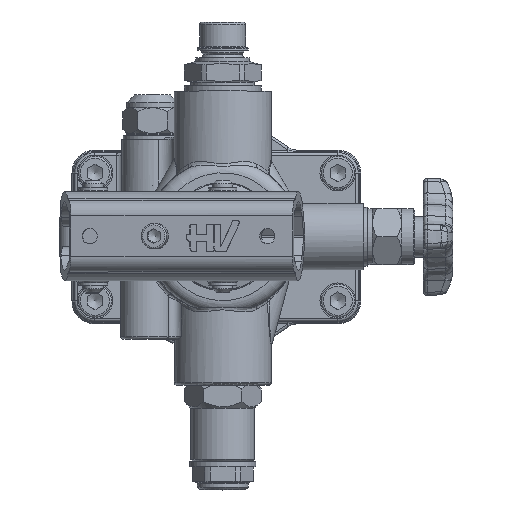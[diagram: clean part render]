
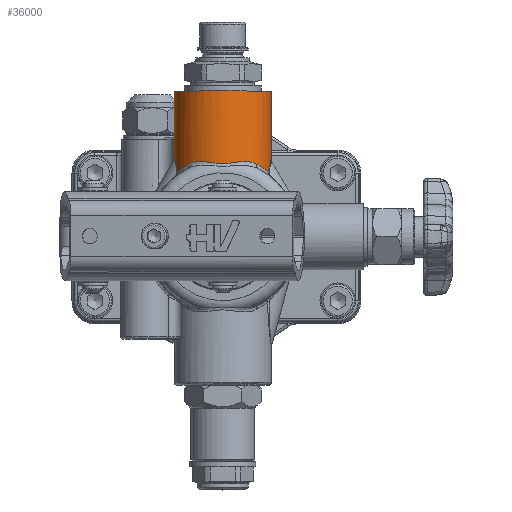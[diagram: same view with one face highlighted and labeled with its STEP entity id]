
A CAD part, top view. The second image highlights one B-rep face of the part: STEP entity #36000.
In plain terms, the highlighted cylindrical face has radius 19 mm (diameter 38 mm), a full revolution.
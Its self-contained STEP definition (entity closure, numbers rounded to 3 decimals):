
#33521=CARTESIAN_POINT('',(-10.797,28.425,52.571));
#33522=VERTEX_POINT('',#33521);
#33548=CARTESIAN_POINT('',(15.797,28.425,52.571));
#33549=VERTEX_POINT('',#33548);
#33557=CARTESIAN_POINT('',(15.797,28.425,52.571));
#33558=CARTESIAN_POINT('',(14.852,28.965,53.498));
#33559=CARTESIAN_POINT('',(12.63,29.567,55.267));
#33560=CARTESIAN_POINT('',(9.399,29.374,56.8));
#33561=CARTESIAN_POINT('',(6.694,28.984,57.571));
#33562=CARTESIAN_POINT('',(4.444,28.666,57.95));
#33563=CARTESIAN_POINT('',(2.319,28.562,58.04));
#33564=CARTESIAN_POINT('',(-0.497,28.771,57.842));
#33565=CARTESIAN_POINT('',(-3.757,29.341,57.106));
#33566=CARTESIAN_POINT('',(-7.303,29.545,55.421));
#33567=CARTESIAN_POINT('',(-9.572,29.044,53.724));
#33568=CARTESIAN_POINT('',(-10.561,28.56,52.803));
#33569=CARTESIAN_POINT('',(-10.797,28.425,52.571));
#33570=B_SPLINE_CURVE_WITH_KNOTS('',3,(#33557,#33558,#33559,#33560,#33561,#33562,#33563,#33564,#33565,#33566,#33567,#33568,#33569),.UNSPECIFIED.,.F.,.U.,(4,1,1,1,1,1,1,1,1,1,4),(-3.274,-2.806,-2.339,-2.105,-1.871,-1.579,-1.403,-0.935,-0.468,-0.117,0.),.UNSPECIFIED.);
#33571=EDGE_CURVE('',#33549,#33522,#33570,.T.);
#34656=CARTESIAN_POINT('',(-15.885,39.,34.203));
#34657=VERTEX_POINT('',#34656);
#34665=CARTESIAN_POINT('',(-8.49,39.,23.501));
#34666=VERTEX_POINT('',#34665);
#34667=CARTESIAN_POINT('',(2.5,39.,39.0));
#34668=DIRECTION('',(0.0,1.0,0.0));
#34669=DIRECTION('',(1.0,0.0,0.0));
#34670=AXIS2_PLACEMENT_3D('',#34667,#34668,#34669);
#34671=CIRCLE('',#34670,19.);
#34672=EDGE_CURVE('',#34666,#34657,#34671,.T.);
#34718=CARTESIAN_POINT('',(-5.958,38.,21.986));
#34719=VERTEX_POINT('',#34718);
#34727=CARTESIAN_POINT('',(-5.958,30.604,21.986));
#34728=VERTEX_POINT('',#34727);
#34729=CARTESIAN_POINT('',(-5.958,38.,21.986));
#34730=DIRECTION('',(0.0,-1.0,0.0));
#34731=VECTOR('',#34730,7.396);
#34732=LINE('',#34729,#34731);
#34733=EDGE_CURVE('',#34719,#34728,#34732,.T.);
#34771=CARTESIAN_POINT('',(-16.406,38.,37.108));
#34772=VERTEX_POINT('',#34771);
#34780=CARTESIAN_POINT('',(-15.885,39.,34.203));
#34781=CARTESIAN_POINT('',(-15.927,39.,34.367));
#34782=CARTESIAN_POINT('',(-15.975,38.984,34.557));
#34783=CARTESIAN_POINT('',(-16.196,38.794,35.528));
#34784=CARTESIAN_POINT('',(-16.324,38.408,36.301));
#34785=CARTESIAN_POINT('',(-16.405,38.003,37.103));
#34786=CARTESIAN_POINT('',(-16.405,38.001,37.105));
#34787=CARTESIAN_POINT('',(-16.406,38.,37.108));
#34788=B_SPLINE_CURVE_WITH_KNOTS('',3,(#34780,#34781,#34782,#34783,#34784,#34785,#34786,#34787),.UNSPECIFIED.,.F.,.U.,(4,2,2,4),(0.777,0.821,0.967,0.968),.UNSPECIFIED.);
#34789=EDGE_CURVE('',#34772,#34657,#34788,.F.);
#35244=CARTESIAN_POINT('',(-15.189,25.333,45.935));
#35245=VERTEX_POINT('',#35244);
#35262=CARTESIAN_POINT('',(-10.797,28.425,52.571));
#35263=CARTESIAN_POINT('',(-12.683,27.348,50.724));
#35264=CARTESIAN_POINT('',(-14.196,26.179,48.467));
#35265=CARTESIAN_POINT('',(-15.189,25.333,45.935));
#35266=B_SPLINE_CURVE_WITH_KNOTS('',3,(#35262,#35263,#35264,#35265),.UNSPECIFIED.,.F.,.U.,(4,4),(0.0,0.933),.UNSPECIFIED.);
#35267=EDGE_CURVE('',#33522,#35245,#35266,.T.);
#35725=CARTESIAN_POINT('',(20.237,25.292,45.812));
#35726=VERTEX_POINT('',#35725);
#35738=CARTESIAN_POINT('',(20.237,25.292,45.813));
#35739=CARTESIAN_POINT('',(19.242,26.144,48.403));
#35740=CARTESIAN_POINT('',(17.716,27.329,50.691));
#35741=CARTESIAN_POINT('',(15.797,28.425,52.571));
#35742=B_SPLINE_CURVE_WITH_KNOTS('',3,(#35738,#35739,#35740,#35741),.UNSPECIFIED.,.F.,.U.,(4,4),(9.304,10.254),.UNSPECIFIED.);
#35743=EDGE_CURVE('',#35726,#33549,#35742,.T.);
#35802=CARTESIAN_POINT('',(20.237,25.292,32.188));
#35803=VERTEX_POINT('',#35802);
#35815=CARTESIAN_POINT('',(-5.958,30.604,21.986));
#35816=CARTESIAN_POINT('',(-5.196,30.862,21.608));
#35817=CARTESIAN_POINT('',(-2.89,31.531,20.647));
#35818=CARTESIAN_POINT('',(1.286,32.137,19.81));
#35819=CARTESIAN_POINT('',(8.094,31.789,20.296));
#35820=CARTESIAN_POINT('',(14.065,29.597,23.341));
#35821=CARTESIAN_POINT('',(18.216,26.944,28.001));
#35822=CARTESIAN_POINT('',(19.69,25.76,30.766));
#35823=CARTESIAN_POINT('',(20.237,25.292,32.188));
#35824=B_SPLINE_CURVE_WITH_KNOTS('',3,(#35815,#35816,#35817,#35818,#35819,#35820,#35821,#35822,#35823),.UNSPECIFIED.,.F.,.U.,(4,1,1,1,1,1,4),(4.146,4.437,4.994,5.552,6.666,7.223,7.746),.UNSPECIFIED.);
#35825=EDGE_CURVE('',#34728,#35803,#35824,.T.);
#35935=CARTESIAN_POINT('',(2.5,0.0,39.0));
#35936=DIRECTION('',(0.0,1.0,0.0));
#35937=DIRECTION('',(1.0,0.0,0.0));
#35938=AXIS2_PLACEMENT_3D('',#35935,#35936,#35937);
#35939=CYLINDRICAL_SURFACE('',#35938,19.);
#35940=CARTESIAN_POINT('',(20.237,25.292,32.188));
#35941=CARTESIAN_POINT('',(20.379,26.061,32.558));
#35942=CARTESIAN_POINT('',(20.862,28.254,33.881));
#35943=CARTESIAN_POINT('',(21.514,30.155,36.86));
#35944=CARTESIAN_POINT('',(21.513,30.15,40.27));
#35945=CARTESIAN_POINT('',(21.192,29.22,42.634));
#35946=CARTESIAN_POINT('',(20.702,27.526,44.537));
#35947=CARTESIAN_POINT('',(20.379,26.061,45.442));
#35948=CARTESIAN_POINT('',(20.237,25.292,45.812));
#35949=B_SPLINE_CURVE_WITH_KNOTS('',3,(#35940,#35941,#35942,#35943,#35944,#35945,#35946,#35947,#35948),.UNSPECIFIED.,.F.,.U.,(4,1,1,1,1,1,4),(-1.838,-1.576,-1.05,-0.788,-0.525,-0.263,0.0),.UNSPECIFIED.);
#35950=EDGE_CURVE('',#35803,#35726,#35949,.T.);
#35951=ORIENTED_EDGE('',*,*,#35950,.F.);
#35952=ORIENTED_EDGE('',*,*,#35825,.F.);
#35953=ORIENTED_EDGE('',*,*,#34733,.F.);
#35954=CARTESIAN_POINT('',(-5.958,38.,21.986));
#35955=CARTESIAN_POINT('',(-5.96,38.001,21.988));
#35956=CARTESIAN_POINT('',(-5.963,38.003,21.989));
#35957=CARTESIAN_POINT('',(-6.684,38.408,22.348));
#35958=CARTESIAN_POINT('',(-7.361,38.794,22.741));
#35959=CARTESIAN_POINT('',(-8.191,38.984,23.292));
#35960=CARTESIAN_POINT('',(-8.353,39.,23.404));
#35961=CARTESIAN_POINT('',(-8.49,39.,23.501));
#35962=B_SPLINE_CURVE_WITH_KNOTS('',3,(#35954,#35955,#35956,#35957,#35958,#35959,#35960,#35961),.UNSPECIFIED.,.F.,.U.,(4,2,2,4),(-0.001,0.0,0.269,0.35),.UNSPECIFIED.);
#35963=EDGE_CURVE('',#34666,#34719,#35962,.F.);
#35964=ORIENTED_EDGE('',*,*,#35963,.F.);
#35965=ORIENTED_EDGE('',*,*,#34672,.T.);
#35966=ORIENTED_EDGE('',*,*,#34789,.F.);
#35967=CARTESIAN_POINT('',(-16.406,30.428,37.108));
#35968=VERTEX_POINT('',#35967);
#35969=CARTESIAN_POINT('',(-16.406,38.,37.108));
#35970=DIRECTION('',(0.0,-1.0,0.0));
#35971=VECTOR('',#35970,7.572);
#35972=LINE('',#35969,#35971);
#35973=EDGE_CURVE('',#34772,#35968,#35972,.T.);
#35974=ORIENTED_EDGE('',*,*,#35973,.T.);
#35975=CARTESIAN_POINT('',(-15.189,25.333,45.935));
#35976=CARTESIAN_POINT('',(-15.429,26.833,45.322));
#35977=CARTESIAN_POINT('',(-15.98,29.164,43.817));
#35978=CARTESIAN_POINT('',(-16.549,30.851,40.344));
#35979=CARTESIAN_POINT('',(-16.508,30.738,38.128));
#35980=CARTESIAN_POINT('',(-16.406,30.428,37.108));
#35981=B_SPLINE_CURVE_WITH_KNOTS('',3,(#35975,#35976,#35977,#35978,#35979,#35980),.UNSPECIFIED.,.F.,.U.,(4,1,1,4),(-1.152,-0.658,-0.329,0.0),.UNSPECIFIED.);
#35982=EDGE_CURVE('',#35245,#35968,#35981,.T.);
#35983=ORIENTED_EDGE('',*,*,#35982,.F.);
#35984=ORIENTED_EDGE('',*,*,#35267,.F.);
#35985=ORIENTED_EDGE('',*,*,#33571,.F.);
#35986=ORIENTED_EDGE('',*,*,#35743,.F.);
#35987=EDGE_LOOP('',(#35951,#35952,#35953,#35964,#35965,#35966,#35974,#35983,#35984,#35985,#35986));
#35988=FACE_OUTER_BOUND('',#35987,.T.);
#35989=CARTESIAN_POINT('',(-16.5,57.,39.));
#35990=VERTEX_POINT('',#35989);
#35991=CARTESIAN_POINT('',(2.5,57.,39.0));
#35992=DIRECTION('',(0.0,1.0,0.0));
#35993=DIRECTION('',(1.0,0.0,0.0));
#35994=AXIS2_PLACEMENT_3D('',#35991,#35992,#35993);
#35995=CIRCLE('',#35994,19.);
#35996=EDGE_CURVE('',#35990,#35990,#35995,.T.);
#35997=ORIENTED_EDGE('',*,*,#35996,.F.);
#35998=EDGE_LOOP('',(#35997));
#35999=FACE_BOUND('',#35998,.T.);
#36000=ADVANCED_FACE('',(#35988,#35999),#35939,.T.);
